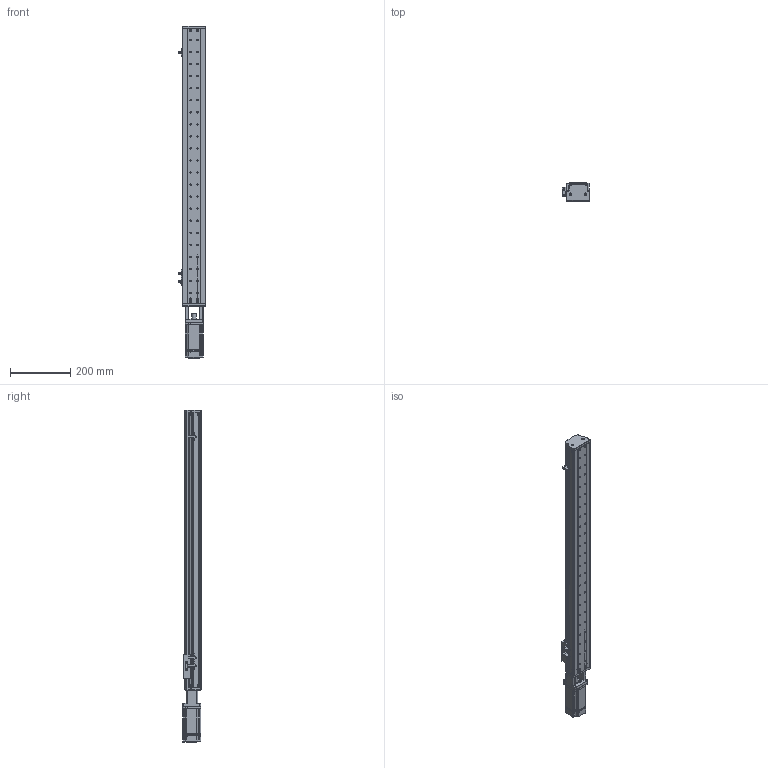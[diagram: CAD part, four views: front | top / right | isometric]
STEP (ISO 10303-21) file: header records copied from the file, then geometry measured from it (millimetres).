
FILE_DESCRIPTION (( 'STEP AP214' ), '1' );
FILE_NAME ('KSD75S-S760-MT-CM.STEP', '2019-10-18T07:34:53', ( '微软用户' ), ( '微软中国' ), 'SwSTEP 2.0', 'SolidWorks 2014', '' );
FILE_SCHEMA (( 'AUTOMOTIVE_DESIGN' ));
Length unit declared in the file: millimetre
Products named in the file (12): 75遵耀郪耜啣-760俴最; 75遵賑雄釱; MGW15H賑寢760; 760俴最; KSD75S-S760-MT-CM; MHMD042G1CA_2_03; 覜茼え100遵圉猾敕; U倰嫖萇EEㄜSX672; 綴傷啣 ; 100遵鎮湛假蚾啣1 ; ヶ傷啣; 75裔啣-760俴最
Assembly tree (14 placements, depth 3):
  KSD75S-S760-MT-CM
    MGW15H賑寢760
      760俴最
    75遵賑雄釱
    75遵耀郪耜啣-760俴最  x2
    75裔啣-760俴最
    ヶ傷啣
    100遵鎮湛假蚾啣1 
    綴傷啣 
    U倰嫖萇EEㄜSX672  x3
    覜茼え100遵圉猾敕
    MHMD042G1CA_2_03
Bounding box: 91.7 x 63 x 1103.5 mm (x, y, z)
Volume: 1101418.3 mm3; surface area: 692384.6 mm2
Topology: 12 solids, 13 shells, 1496 faces, 4197 edges, 2739 vertices
Faces by surface type: cylinder 732, plane 617, cone 129, bspline 18
Entity records: 47976 total; most frequent: CARTESIAN_POINT 9047, DIRECTION 7213, ORIENTED_EDGE 6674, EDGE_CURVE 3408, AXIS2_PLACEMENT_3D 2684, VERTEX_POINT 2257, LINE 1845, VECTOR 1845
